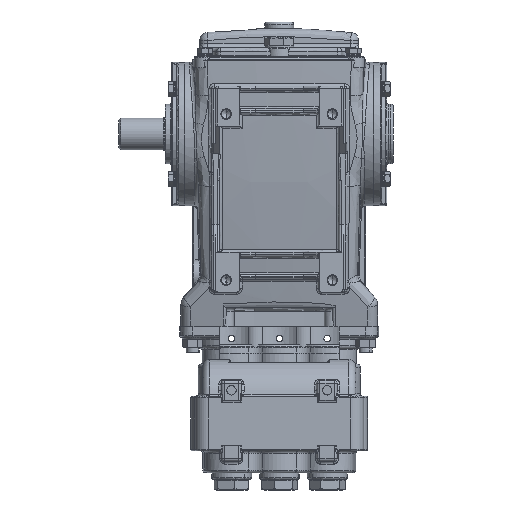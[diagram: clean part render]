
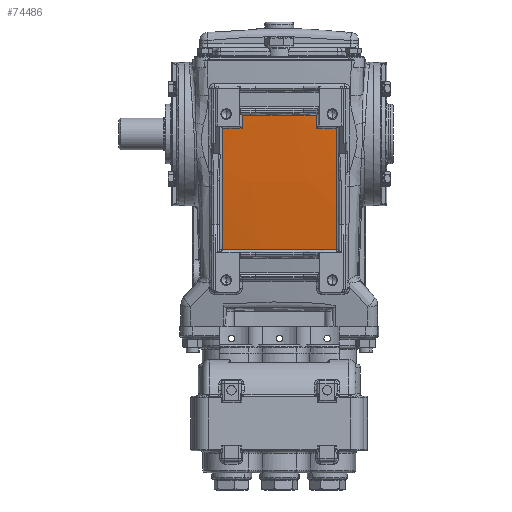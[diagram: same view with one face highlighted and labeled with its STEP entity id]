
A CAD part, front view. The second image highlights one B-rep face of the part: STEP entity #74486.
In plain terms, the highlighted spherical face has radius 1000 mm.
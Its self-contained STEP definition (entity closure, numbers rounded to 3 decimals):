
#16537 = ORIENTED_EDGE ( 'NONE', *, *, #155318, .T. ) ;
#16626 = ORIENTED_EDGE ( 'NONE', *, *, #155315, .T. ) ;
#16697 = ORIENTED_EDGE ( 'NONE', *, *, #155317, .T. ) ;
#16706 = ORIENTED_EDGE ( 'NONE', *, *, #155314, .T. ) ;
#16710 = ORIENTED_EDGE ( 'NONE', *, *, #155321, .T. ) ;
#40633 = AXIS2_PLACEMENT_3D ( 'NONE', #123299, #123300, #123301 ) ;
#40667 = FACE_OUTER_BOUND ( 'NONE', #78352, .T. ) ;
#40673 = SPHERICAL_SURFACE ( 'NONE', #40633, 1000. ) ;
#52407 = CIRCLE ( 'NONE', #129302, 999.079 ) ;
#52410 = CIRCLE ( 'NONE', #129307, 996.047 ) ;
#52414 = CIRCLE ( 'NONE', #129310, 983.732 ) ;
#52417 = CIRCLE ( 'NONE', #129309, 999.079 ) ;
#52421 = CIRCLE ( 'NONE', #129315, 996.047 ) ;
#52428 = CIRCLE ( 'NONE', #129323, 999.609 ) ;
#52430 = CIRCLE ( 'NONE', #129320, 996.887 ) ;
#52433 = CIRCLE ( 'NONE', #129317, 999.609 ) ;
#59315 = CARTESIAN_POINT ( 'NONE',  ( 42.914, -56.723, 4.178 ) ) ;
#59331 = CARTESIAN_POINT ( 'NONE',  ( -42.914, -56.723, 4.178 ) ) ;
#59335 = CARTESIAN_POINT ( 'NONE',  ( -27.944, -58.095, 14.158 ) ) ;
#59374 = CARTESIAN_POINT ( 'NONE',  ( 27.944, -58.095, 14.158 ) ) ;
#59393 = CARTESIAN_POINT ( 'NONE',  ( 42.914, -44.396, -86.641 ) ) ;
#74486 = ADVANCED_FACE ( 'NONE', ( #40667 ), #40673, .T. ) ;
#78352 = EDGE_LOOP ( 'NONE', ( #16626, #16706, #16697, #16537, #16710, #185025, #184558, #184700 ) ) ;
#78752 = VERTEX_POINT ( 'NONE', #191460 ) ;
#78760 = VERTEX_POINT ( 'NONE', #191471 ) ;
#123299 = CARTESIAN_POINT ( 'NONE',  ( 0., 938.4, 93. ) ) ;
#123300 = DIRECTION ( 'NONE',  ( 0., 0.259, -0.966 ) ) ;
#123301 = DIRECTION ( 'NONE',  ( 0., -0.966, -0.259 ) ) ;
#129302 = AXIS2_PLACEMENT_3D ( 'NONE', #139600, #139601, #139602 ) ;
#129307 = AXIS2_PLACEMENT_3D ( 'NONE', #139603, #139604, #139605 ) ;
#129309 = AXIS2_PLACEMENT_3D ( 'NONE', #139612, #139613, #139614 ) ;
#129310 = AXIS2_PLACEMENT_3D ( 'NONE', #139609, #139610, #139611 ) ;
#129315 = AXIS2_PLACEMENT_3D ( 'NONE', #139622, #139624, #139626 ) ;
#129317 = AXIS2_PLACEMENT_3D ( 'NONE', #139673, #139675, #139677 ) ;
#129320 = AXIS2_PLACEMENT_3D ( 'NONE', #139661, #139669, #139671 ) ;
#129323 = AXIS2_PLACEMENT_3D ( 'NONE', #139655, #139657, #139659 ) ;
#139600 = CARTESIAN_POINT ( 'NONE',  ( -42.914, 938.4, 93. ) ) ;
#139601 = DIRECTION ( 'NONE',  ( 1., 0., 0. ) ) ;
#139602 = DIRECTION ( 'NONE',  ( 0., 0., -1. ) ) ;
#139603 = CARTESIAN_POINT ( 'NONE',  ( 0., 938.4, 4.178 ) ) ;
#139604 = DIRECTION ( 'NONE',  ( 0., 0., -1. ) ) ;
#139605 = DIRECTION ( 'NONE',  ( 1., 0., 0. ) ) ;
#139609 = CARTESIAN_POINT ( 'NONE',  ( 0., 938.4, -86.641 ) ) ;
#139610 = DIRECTION ( 'NONE',  ( 0., 0., 1. ) ) ;
#139611 = DIRECTION ( 'NONE',  ( 1., 0., 0. ) ) ;
#139612 = CARTESIAN_POINT ( 'NONE',  ( 42.914, 938.4, 93. ) ) ;
#139613 = DIRECTION ( 'NONE',  ( -1., 0., 0. ) ) ;
#139614 = DIRECTION ( 'NONE',  ( 0., 0., 1. ) ) ;
#139622 = CARTESIAN_POINT ( 'NONE',  ( 0., 938.4, 4.178 ) ) ;
#139624 = DIRECTION ( 'NONE',  ( 0., 0., -1. ) ) ;
#139626 = DIRECTION ( 'NONE',  ( 1., 0., 0. ) ) ;
#139655 = CARTESIAN_POINT ( 'NONE',  ( 27.944, 938.4, 93. ) ) ;
#139657 = DIRECTION ( 'NONE',  ( -1., 0., 0. ) ) ;
#139659 = DIRECTION ( 'NONE',  ( 0., -1., 0. ) ) ;
#139661 = CARTESIAN_POINT ( 'NONE',  ( 0., 938.4, 14.158 ) ) ;
#139669 = DIRECTION ( 'NONE',  ( 0., 0., -1. ) ) ;
#139671 = DIRECTION ( 'NONE',  ( 1., 0., 0. ) ) ;
#139673 = CARTESIAN_POINT ( 'NONE',  ( -27.944, 938.4, 93. ) ) ;
#139675 = DIRECTION ( 'NONE',  ( 1., 0., 0. ) ) ;
#139677 = DIRECTION ( 'NONE',  ( 0., 1., 0. ) ) ;
#155314 = EDGE_CURVE ( 'NONE', #187402, #78752, #52407, .T. ) ;
#155315 = EDGE_CURVE ( 'NONE', #186678, #187402, #52410, .T. ) ;
#155317 = EDGE_CURVE ( 'NONE', #78752, #187526, #52414, .T. ) ;
#155318 = EDGE_CURVE ( 'NONE', #187526, #187372, #52417, .T. ) ;
#155321 = EDGE_CURVE ( 'NONE', #187372, #78760, #52421, .T. ) ;
#155326 = EDGE_CURVE ( 'NONE', #78760, #187488, #52428, .T. ) ;
#155328 = EDGE_CURVE ( 'NONE', #187488, #187410, #52430, .T. ) ;
#155329 = EDGE_CURVE ( 'NONE', #187410, #186678, #52433, .T. ) ;
#162183 = CARTESIAN_POINT ( 'NONE',  ( -27.944, -57.255, 4.178 ) ) ;
#184558 = ORIENTED_EDGE ( 'NONE', *, *, #155328, .T. ) ;
#184700 = ORIENTED_EDGE ( 'NONE', *, *, #155329, .T. ) ;
#185025 = ORIENTED_EDGE ( 'NONE', *, *, #155326, .T. ) ;
#186678 = VERTEX_POINT ( 'NONE', #162183 ) ;
#187372 = VERTEX_POINT ( 'NONE', #59315 ) ;
#187402 = VERTEX_POINT ( 'NONE', #59331 ) ;
#187410 = VERTEX_POINT ( 'NONE', #59335 ) ;
#187488 = VERTEX_POINT ( 'NONE', #59374 ) ;
#187526 = VERTEX_POINT ( 'NONE', #59393 ) ;
#191460 = CARTESIAN_POINT ( 'NONE',  ( -42.914, -44.396, -86.641 ) ) ;
#191471 = CARTESIAN_POINT ( 'NONE',  ( 27.944, -57.255, 4.178 ) ) ;
